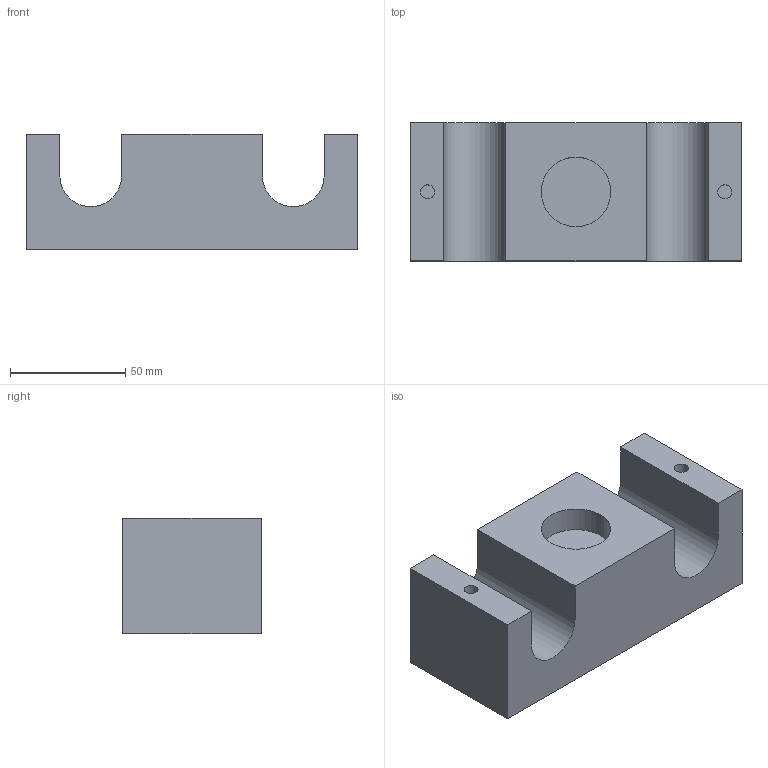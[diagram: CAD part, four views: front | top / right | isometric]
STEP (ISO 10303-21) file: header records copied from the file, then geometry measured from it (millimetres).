
FILE_DESCRIPTION(('STEP AP203'), '1');
FILE_NAME('殃铍箜', '', ('UNSPECIFIED'), ('UNSPECIFIED'), 'C3D Converter', 'C3D Toolkit', '');
FILE_SCHEMA(('CONFIG_CONTROL_DESIGN'));
Length unit declared in the file: millimetre
Bounding box: 144 x 60 x 50 mm (x, y, z)
Volume: 322177.1 mm3; surface area: 44070.4 mm2
Topology: 1 solids, 1 shells, 25 faces, 57 edges, 38 vertices
Faces by surface type: plane 20, cylinder 5
Full cylindrical faces by diameter (mm): 6.1 x2, 30.2 x1
Entity records: 926 total; most frequent: CARTESIAN_POINT 118, DIRECTION 116, ORIENTED_EDGE 108, EDGE_CURVE 54, LINE 44, VECTOR 44, VERTEX_POINT 38, AXIS2_PLACEMENT_3D 36
